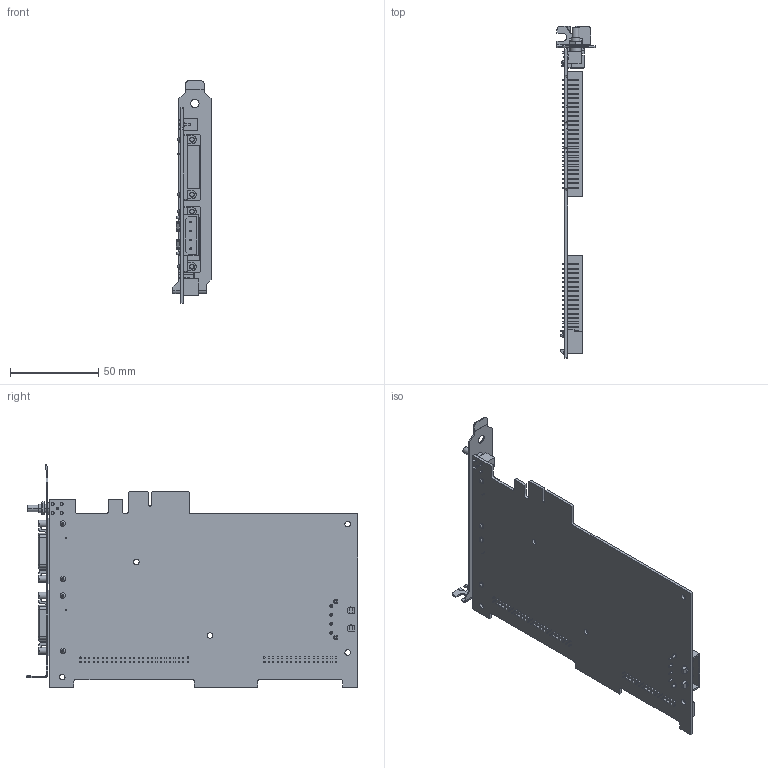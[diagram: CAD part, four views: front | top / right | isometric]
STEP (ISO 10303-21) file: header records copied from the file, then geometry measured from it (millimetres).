
FILE_DESCRIPTION((''),'2;1');
FILE_NAME('CU_PCIE-1473R','2013-09-20T',('dkendric'),(''),'PRO/ENGINEER BY PARAMETRIC TECHNOLOGY CORPORATION, 2011490','PRO/ENGINEER BY PARAMETRIC TECHNOLOGY CORPORATION, 2011490','');
FILE_SCHEMA(('CONFIG_CONTROL_DESIGN'));
Length unit declared in the file: inch
Products named in the file (1): CU_PCIE-1473R
Bounding box: 21.59 x 188.15 x 126.34 mm (x, y, z)
Volume: 43360.7 mm3; surface area: 52412.6 mm2
Topology: 6 solids, 6 shells, 2076 faces, 5674 edges, 3744 vertices
Faces by surface type: plane 1633, cylinder 399, cone 24, bspline 12, torus 8
Entity records: 66380 total; most frequent: CARTESIAN_POINT 12362, ORIENTED_EDGE 11348, DIRECTION 10664, EDGE_CURVE 5674, VECTOR 4744, LINE 4744, VERTEX_POINT 3744, AXIS2_PLACEMENT_3D 2960
